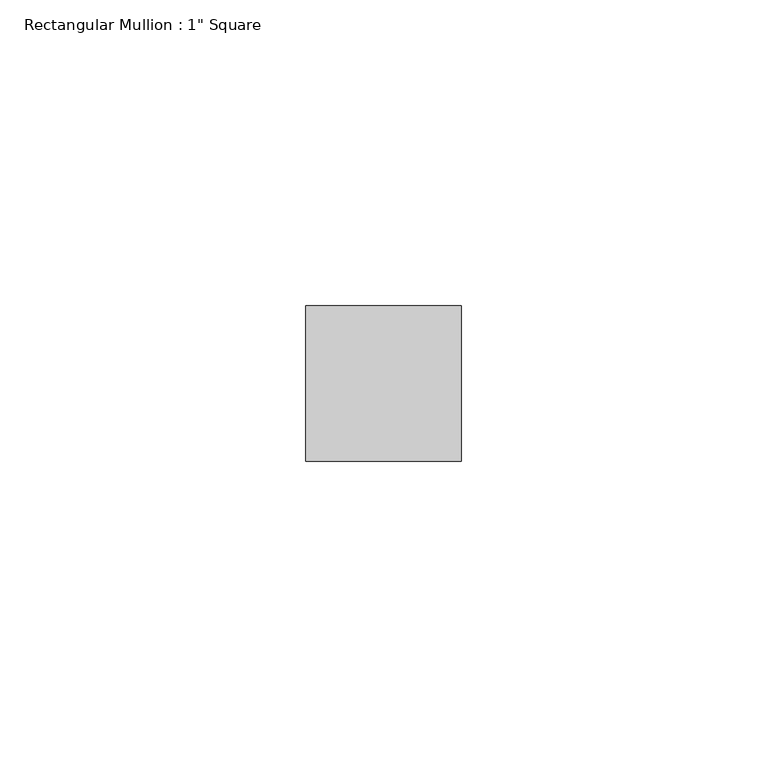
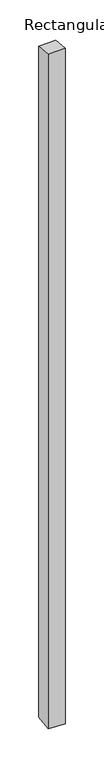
"""IFC4 building model written with IfcOpenShell, lengths in millimetres: member geometry."""

from ifc_helpers import new_model, si_unit, origin, place, context, project, spatial, faceted_brep, source, transform, mapped, element, save


def member_89652987(model_context):
    return source(origin(), model_context, "Body", "Brep", [
        faceted_brep([(-25.4, 12.7, -2.1860656), (0.0, 12.7, -1.3342493), (0.0, 12.7, -1065.4252443), (-25.4, 12.7, -1064.5475678), (-25.4, -12.7, 0.482433), (-25.4, -12.7, -1067.2970792), (0.0, -12.7, 1.3342493), (0.0, -12.7, -1068.1747557)], [[[0, 1, 2, 3]], [[4, 0, 3, 5]], [[6, 4, 5, 7]], [[1, 6, 7, 2]], [[1, 0, 4, 6]], [[2, 7, 5, 3]]]),
    ])


if __name__ == "__main__":
    model = new_model("IFC4")
    model_context = context("Model", 3, world=origin())
    ifc_project = project(units=[si_unit("LENGTHUNIT", "METRE", prefix="MILLI")], contexts=[model_context])
    site = spatial("IfcSite", under=ifc_project)
    building = spatial("IfcBuilding", under=site)
    placement = place(None, origin())
    member_shape = member_89652987(model_context)
    element("IfcMember", 1, ObjectType="Rectangular Mullion : 1\" Square", at=placement, inside=building, context=model_context, shape_type="MappedRepresentation", body=[
        mapped(member_shape, transform((0.0, 0.0, 0.0), x_axis=(1.0, 0.0, 0.0), y_axis=(0.0, 1.0, 0.0), z_axis=(0.0, 0.0, 1.0))),
    ])
    save(model, "model.ifc")
